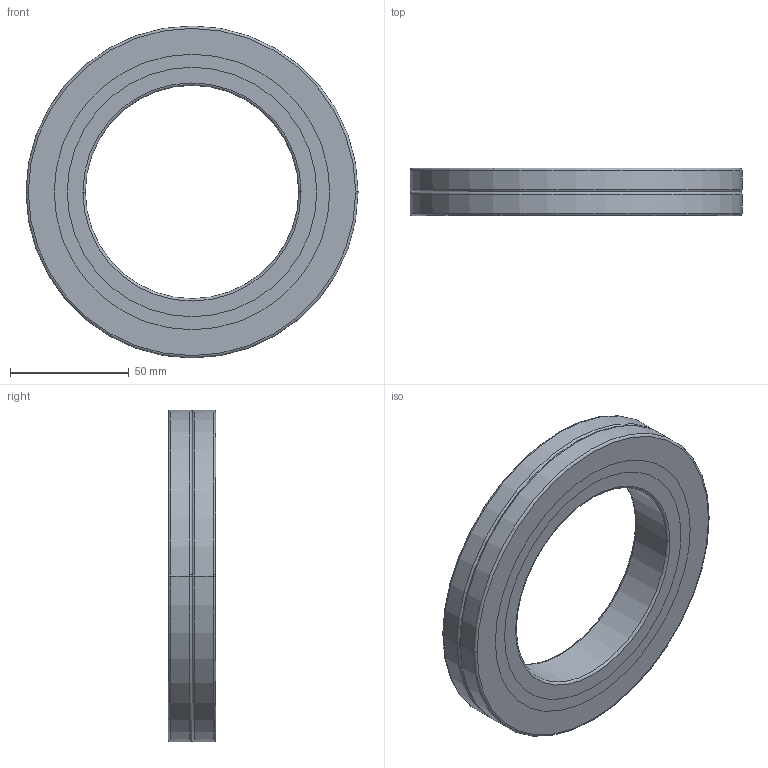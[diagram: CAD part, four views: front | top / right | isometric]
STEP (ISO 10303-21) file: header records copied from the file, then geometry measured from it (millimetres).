
FILE_DESCRIPTION(('no description'),'unknown implementation level');
FILE_NAME('CRBA09020_11.stp',' ',('HIWIN GmbH'),('CADClick - KiM GmbH - www.kimweb.de'),'unknown preprocess','ACIS','unknown authorization');
FILE_SCHEMA(('automotive_design'));
Length unit declared in the file: millimetre
Products named in the file (5): CRBA09020_1; CRBA09020_2; CRBA09020_3; CRBA09020_4; CRBA09020
Bounding box: 140 x 20 x 140 mm (x, y, z)
Volume: 147626.4 mm3; surface area: 60918 mm2
Topology: 5 solids, 5 shells, 54 faces, 120 edges, 76 vertices
Faces by surface type: torus 24, cylinder 20, plane 10
Entity records: 3096 total; most frequent: DIRECTION 338, STYLED_ITEM 255, PRESENTATION_STYLE_ASSIGNMENT 255, CARTESIAN_POINT 255, COLOUR_RGB 255, ORIENTED_EDGE 240, AXIS2_PLACEMENT_3D 159, EDGE_CURVE 120
